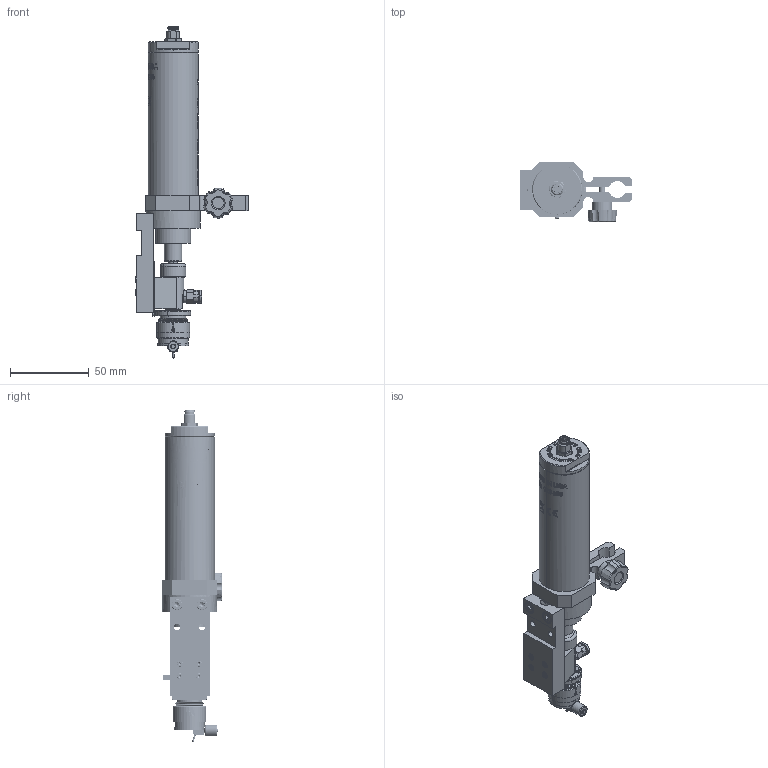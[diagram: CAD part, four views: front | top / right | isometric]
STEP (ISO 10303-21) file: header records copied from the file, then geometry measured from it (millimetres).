
FILE_DESCRIPTION (( 'STEP AP214' ), '1' );
FILE_NAME ('NORDSONEFD-7029744 AUGER VALVE SLD HD BRUSHLESS 16P DEC.STEP', '2019-03-08T02:16:07', ( '' ), ( '' ), 'SwSTEP 2.0', 'SolidWorks 2019', '' );
FILE_SCHEMA (( 'AUTOMOTIVE_DESIGN' ));
Length unit declared in the file: inch
Products named in the file (1): NORDSONEFD-7029744  AUGER VALVE SLD HD BRUSHLESS 16P DEC
Bounding box: 71.41 x 38.05 x 210.55 mm (x, y, z)
Volume: 75312 mm3; surface area: 65324.6 mm2
Topology: 39 solids, 39 shells, 3335 faces, 8383 edges, 5287 vertices
Faces by surface type: plane 993, cylinder 982, bspline 678, cone 533, torus 105, sphere 44
Entity records: 191631 total; most frequent: CARTESIAN_POINT 109194, ORIENTED_EDGE 16678, DIRECTION 13395, EDGE_CURVE 8339, VERTEX_POINT 5281, AXIS2_PLACEMENT_3D 4982, EDGE_LOOP 3638, VECTOR 3431
